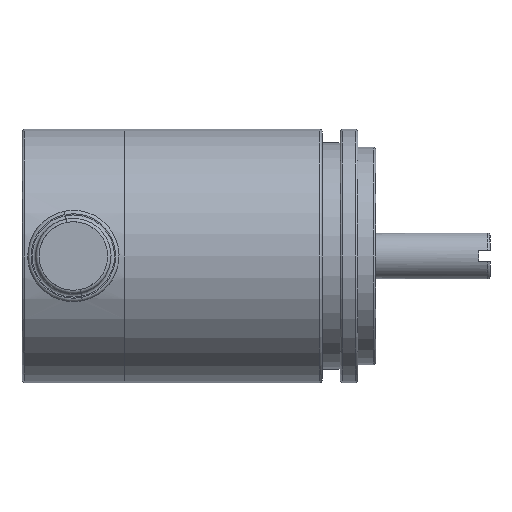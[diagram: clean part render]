
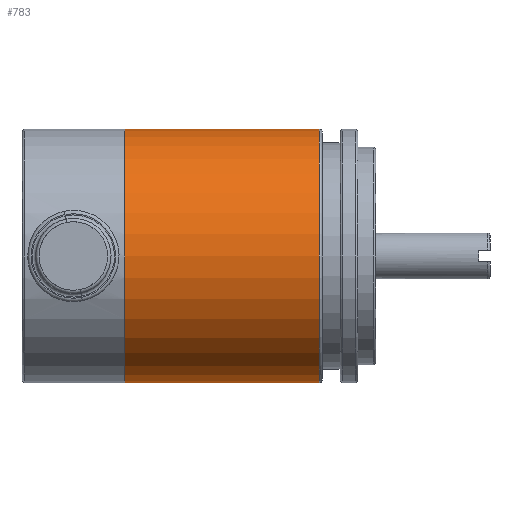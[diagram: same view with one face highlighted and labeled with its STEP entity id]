
A CAD part, front view. The second image highlights one B-rep face of the part: STEP entity #783.
In plain terms, the highlighted cylindrical face has radius 11.115 mm (diameter 22.23 mm), a partial arc.
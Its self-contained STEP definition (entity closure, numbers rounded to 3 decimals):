
#36 = VERTEX_POINT ( 'NONE', #957 ) ;
#40 = VERTEX_POINT ( 'NONE', #988 ) ;
#49 = EDGE_CURVE ( 'NONE', #55, #40, #1026, .T. ) ;
#52 = EDGE_CURVE ( 'NONE', #54, #36, #1067, .T. ) ;
#54 = VERTEX_POINT ( 'NONE', #1059 ) ;
#55 = VERTEX_POINT ( 'NONE', #1058 ) ;
#725 = ORIENTED_EDGE ( 'NONE', *, *, #52, .F. ) ;
#726 = ORIENTED_EDGE ( 'NONE', *, *, #782, .T. ) ;
#782 = EDGE_CURVE ( 'NONE', #54, #55, #3497, .T. ) ;
#783 = ADVANCED_FACE ( 'NONE', ( #3493 ), #3529, .T. ) ;
#784 = ORIENTED_EDGE ( 'NONE', *, *, #49, .T. ) ;
#785 = ORIENTED_EDGE ( 'NONE', *, *, #786, .T. ) ;
#786 = EDGE_CURVE ( 'NONE', #40, #36, #3524, .T. ) ;
#787 = EDGE_LOOP ( 'NONE', ( #725, #726, #784, #785 ) ) ;
#957 = CARTESIAN_POINT ( 'NONE',  ( 4.743, 7.308, 11.115 ) ) ;
#988 = CARTESIAN_POINT ( 'NONE',  ( 4.743, 7.308, -11.115 ) ) ;
#1023 = DIRECTION ( 'NONE',  ( 1., 0., 0. ) ) ;
#1024 = VECTOR ( 'NONE', #1023, 1000. ) ;
#1025 = CARTESIAN_POINT ( 'NONE',  ( 27.971, 7.308, -11.115 ) ) ;
#1026 = LINE ( 'NONE', #1025, #1024 ) ;
#1058 = CARTESIAN_POINT ( 'NONE',  ( -12.297, 7.308, -11.115 ) ) ;
#1059 = CARTESIAN_POINT ( 'NONE',  ( -12.297, 7.308, 11.115 ) ) ;
#1060 = DIRECTION ( 'NONE',  ( 1., 0., 0. ) ) ;
#1061 = VECTOR ( 'NONE', #1060, 1000. ) ;
#1062 = CARTESIAN_POINT ( 'NONE',  ( 27.971, 7.308, 11.115 ) ) ;
#1067 = LINE ( 'NONE', #1062, #1061 ) ;
#3493 = FACE_OUTER_BOUND ( 'NONE', #787, .T. ) ;
#3494 = DIRECTION ( 'NONE',  ( 0., 0., -1. ) ) ;
#3495 = DIRECTION ( 'NONE',  ( 1., 0., 0. ) ) ;
#3496 = AXIS2_PLACEMENT_3D ( 'NONE', #3503, #3495, #3494 ) ;
#3497 = CIRCLE ( 'NONE', #3496, 11.115 ) ;
#3503 = CARTESIAN_POINT ( 'NONE',  ( -12.297, 7.308, 0. ) ) ;
#3521 = DIRECTION ( 'NONE',  ( 0., 0., -1. ) ) ;
#3522 = DIRECTION ( 'NONE',  ( -1., 0., 0. ) ) ;
#3523 = AXIS2_PLACEMENT_3D ( 'NONE', #3530, #3522, #3521 ) ;
#3524 = CIRCLE ( 'NONE', #3523, 11.115 ) ;
#3526 = DIRECTION ( 'NONE',  ( 0., 0., -1. ) ) ;
#3527 = DIRECTION ( 'NONE',  ( 1., 0., 0. ) ) ;
#3528 = AXIS2_PLACEMENT_3D ( 'NONE', #3531, #3527, #3526 ) ;
#3529 = CYLINDRICAL_SURFACE ( 'NONE', #3528, 11.115 ) ;
#3530 = CARTESIAN_POINT ( 'NONE',  ( 4.743, 7.308, 0. ) ) ;
#3531 = CARTESIAN_POINT ( 'NONE',  ( 27.971, 7.308, 0. ) ) ;
